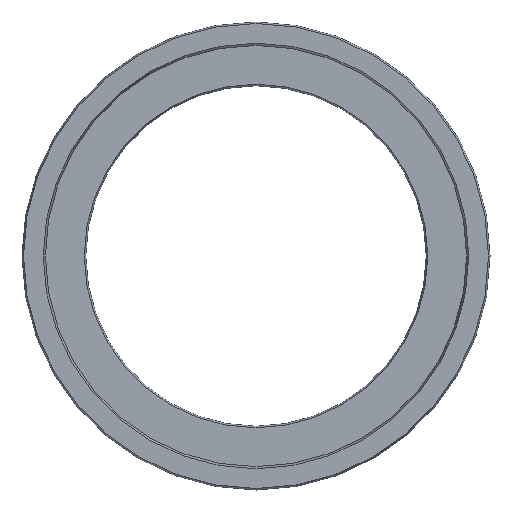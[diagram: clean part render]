
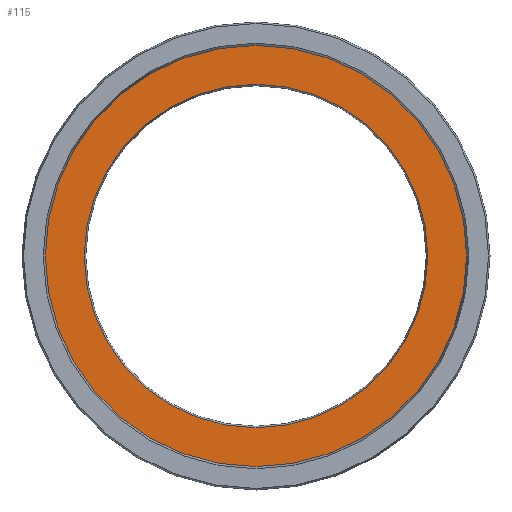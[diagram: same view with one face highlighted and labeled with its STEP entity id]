
A CAD part, left-side view. The second image highlights one B-rep face of the part: STEP entity #115.
In plain terms, the highlighted planar face has unit normal (-1, 0, 0).
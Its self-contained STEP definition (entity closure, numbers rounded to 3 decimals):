
#115=ADVANCED_FACE('',(#149,#150),#141,.F.);
#141=PLANE('',#386);
#149=FACE_BOUND('',#201,.T.);
#150=FACE_BOUND('',#202,.T.);
#201=EDGE_LOOP('',(#253));
#202=EDGE_LOOP('',(#254));
#253=ORIENTED_EDGE('',*,*,#331,.T.);
#254=ORIENTED_EDGE('',*,*,#332,.T.);
#305=VERTEX_POINT('',#544);
#306=VERTEX_POINT('',#546);
#331=EDGE_CURVE('',#305,#305,#357,.T.);
#332=EDGE_CURVE('',#306,#306,#358,.T.);
#357=CIRCLE('',#384,40.364);
#358=CIRCLE('',#385,49.5);
#384=AXIS2_PLACEMENT_3D('',#543,#438,#439);
#385=AXIS2_PLACEMENT_3D('',#545,#440,#441);
#386=AXIS2_PLACEMENT_3D('',#547,#442,#443);
#438=DIRECTION('',(1.,0.,0.));
#439=DIRECTION('',(0.,0.,-1.));
#440=DIRECTION('',(-1.,0.,0.));
#441=DIRECTION('',(0.,0.,1.));
#442=DIRECTION('',(1.,0.,0.));
#443=DIRECTION('',(0.,0.,-1.));
#543=CARTESIAN_POINT('',(0.,0.,0.));
#544=CARTESIAN_POINT('',(0.,0.,-40.364));
#545=CARTESIAN_POINT('',(0.,0.,0.));
#546=CARTESIAN_POINT('',(0.,0.,49.5));
#547=CARTESIAN_POINT('',(0.,49.5,0.));
